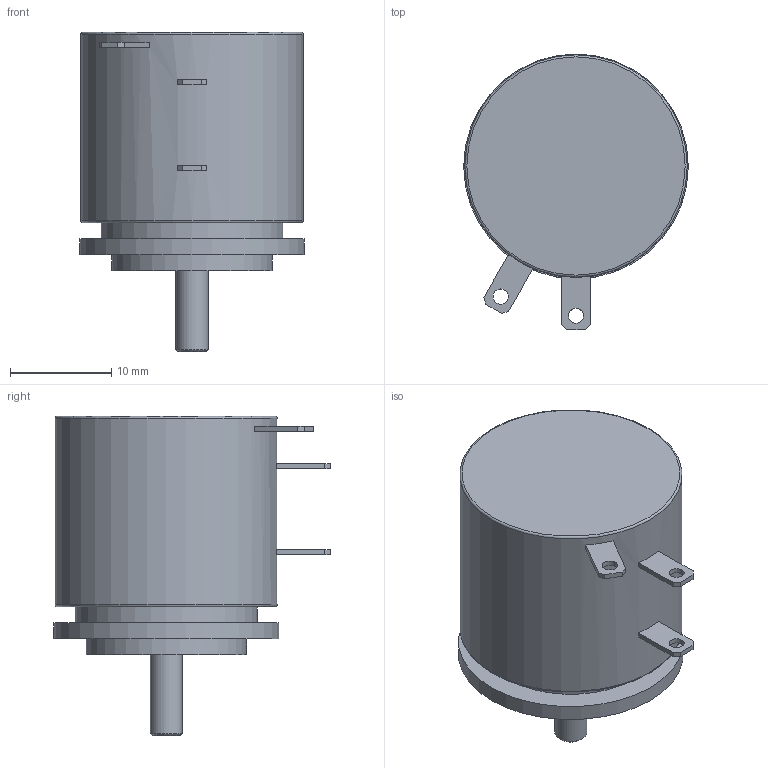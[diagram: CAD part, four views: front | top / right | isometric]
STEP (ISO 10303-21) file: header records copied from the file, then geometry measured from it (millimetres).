
FILE_DESCRIPTION (( 'STEP AP214' ), '1' );
FILE_NAME ('HS17.STEP', '2019-05-06T14:29:07', ( '' ), ( '' ), 'SwSTEP 2.0', 'SolidWorks 2017', '' );
FILE_SCHEMA (( 'AUTOMOTIVE_DESIGN' ));
Length unit declared in the file: millimetre
Products named in the file (1): HS17
Bounding box: 22.23 x 27.32 x 31.6 mm (x, y, z)
Volume: 8467.8 mm3; surface area: 2811.1 mm2
Topology: 1 solids, 1 shells, 40 faces, 88 edges, 58 vertices
Faces by surface type: plane 28, cylinder 9, torus 2, cone 1
Full cylindrical faces by diameter (mm): 1.5 x3, 3.175 x1, 14 x1, 15.87 x1, 18 x1, 22 x1, 22.23 x1
Entity records: 1080 total; most frequent: DIRECTION 184, CARTESIAN_POINT 173, ORIENTED_EDGE 150, EDGE_CURVE 75, AXIS2_PLACEMENT_3D 68, EDGE_LOOP 66, VERTEX_POINT 57, FACE_OUTER_BOUND 51
